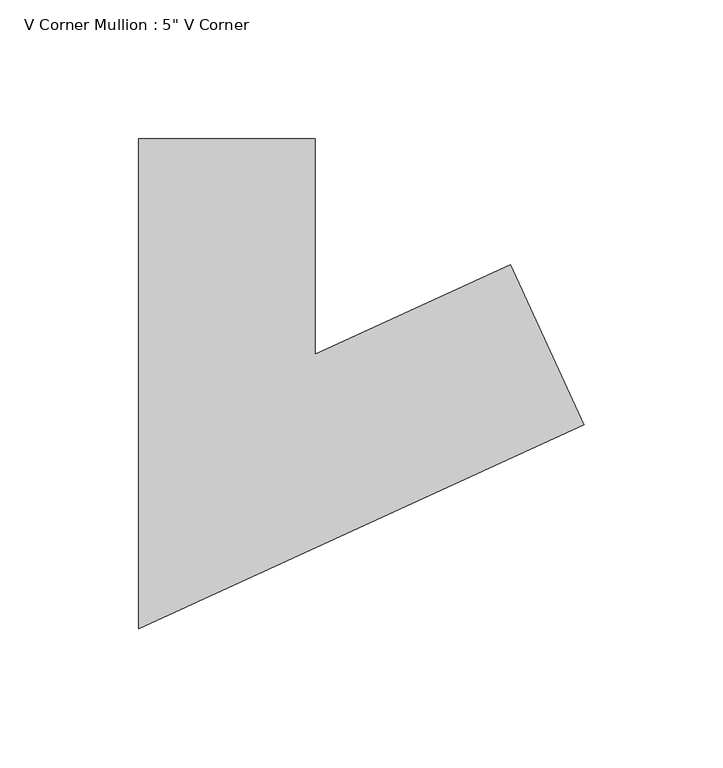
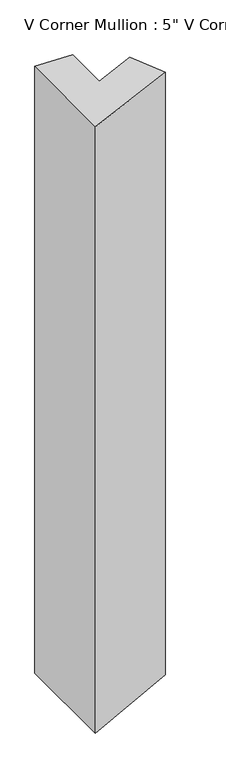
"""IFC4 building model written with IfcOpenShell, lengths in millimetres: member geometry."""

from ifc_helpers import new_model, si_unit, origin, place, context, project, spatial, faceted_brep, source, transform, mapped, element, save


def member_d02cf1ea(model_context):
    return source(origin(), model_context, "Body", "Brep", [
        faceted_brep([(61.49523, 18.2208415, -1.5228871), (87.9205542, -39.5195451, -2.1772921), (87.9205542, -39.5195451, -1075.4095998), (61.49523, 18.2208415, -1075.889763), (-9.0228811, -14.0523047, 0.2234455), (-9.0228811, -14.0523047, -1077.1711172), (-9.0228811, 63.5, 0.2234455), (-9.0228811, 63.5, -1077.1711172), (-72.5228811, 63.5, 1.7959794), (-72.5228811, 63.5, -1078.3249483), (-72.5228811, -112.9476953, 1.7959794), (-72.5228811, -112.9476953, -1078.3249483)], [[[0, 1, 2, 3]], [[4, 0, 3, 5]], [[6, 4, 5, 7]], [[8, 6, 7, 9]], [[10, 8, 9, 11]], [[1, 10, 11, 2]], [[1, 0, 4, 6, 8, 10]], [[2, 11, 9, 7, 5, 3]]]),
    ])


if __name__ == "__main__":
    model = new_model("IFC4")
    model_context = context("Model", 3, world=origin())
    ifc_project = project(units=[si_unit("LENGTHUNIT", "METRE", prefix="MILLI")], contexts=[model_context])
    site = spatial("IfcSite", under=ifc_project)
    building = spatial("IfcBuilding", under=site)
    placement = place(None, origin())
    member_shape = member_d02cf1ea(model_context)
    element("IfcMember", 1, ObjectType="V Corner Mullion : 5\" V Corner", at=placement, inside=building, context=model_context, shape_type="MappedRepresentation", body=[
        mapped(member_shape, transform((0.0, 0.0, 0.0), x_axis=(1.0, 0.0, 0.0), y_axis=(0.0, 1.0, 0.0), z_axis=(0.0, 0.0, 1.0))),
    ])
    save(model, "model.ifc")
